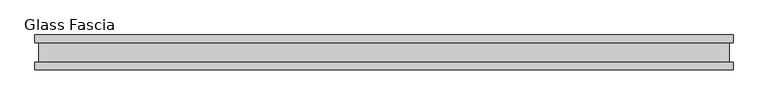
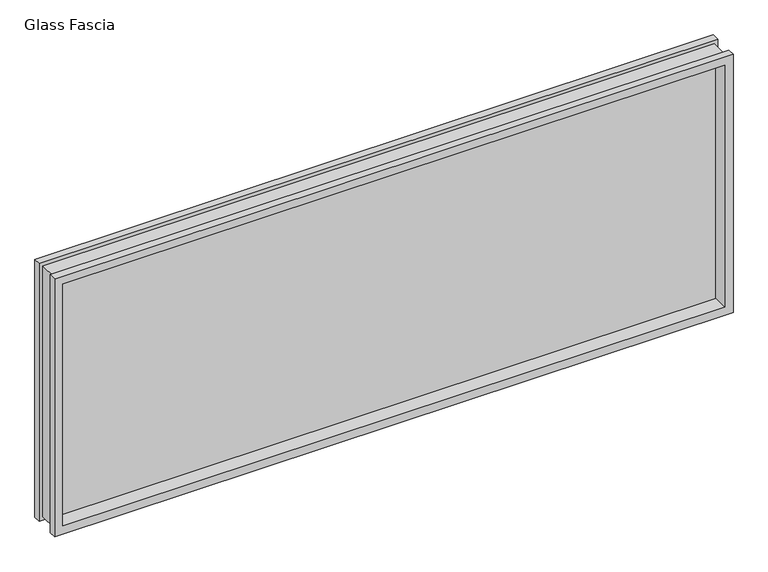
"""IFC4 building model written with IfcOpenShell, lengths in millimetres: proxy geometry, Panel-Fascia-Teknion-Altos-Glass : Glass Fascia."""

from ifc_helpers import new_model, si_unit, frame, origin, place, context, project, spatial, polyline, outline, extrude, faceted_brep, source, transform, mapped, element, save


def glass_fascia_7f66fccd(model_context):
    return source(origin(), model_context, "Body", "SolidModel", [
        faceted_brep([(985.6995219, -5.0827449, 793.1305243), (985.6995219, 5.0827449, 793.1305243), (985.6995219, 5.0827449, 17.6374757), (985.6995219, -5.0827449, 17.6374757), (1000.1619976, -28.8801202, 807.593), (1000.1619976, -50.0558594, 807.593), (1000.1619976, -50.0558594, 3.175), (1000.1619976, -28.8801202, 3.175), (989.3369977, 28.2698798, 796.7680001), (989.3369977, -28.8801202, 796.7680001), (989.3369977, -28.8801202, 13.9999999), (989.3369977, 28.2698798, 13.9999999), (1000.1619976, 50.0558594, 807.593), (1000.1619976, 28.2698798, 807.593), (1000.1619976, 28.2698798, 3.175), (1000.1619976, 50.0558594, 3.175), (-985.6995219, 5.0827449, 17.6374757), (-985.6995219, -5.0827449, 17.6374757), (-1000.1619976, -50.0558594, 3.175), (-1000.1619976, -28.8801202, 3.175), (-989.3369977, -28.8801202, 13.9999999), (-989.3369977, 28.2698798, 13.9999999), (-1000.1619976, 28.2698798, 3.175), (-1000.1619976, 50.0558594, 3.175), (-985.6995219, 5.0827449, 793.1305243), (-985.6995219, -5.0827449, 793.1305243), (-1000.1619976, -50.0558594, 807.593), (-1000.1619976, -28.8801202, 807.593), (-989.3369977, -28.8801202, 796.7680001), (-989.3369977, 28.2698798, 796.7680001), (-1000.1619976, 28.2698798, 807.593), (-1000.1619976, 50.0558594, 807.593), (975.2093308, 50.0558594, 782.6403332), (-975.2093308, 50.0558594, 782.6403332), (-975.2093308, 50.0558594, 28.1276668), (975.2093308, 50.0558594, 28.1276668), (975.2093308, 5.0827449, 28.1276668), (-975.2093308, 5.0827449, 28.1276668), (-975.2093308, 5.0827449, 782.6403332), (975.2093308, 5.0827449, 782.6403332), (975.2093308, -5.0827449, 782.6403332), (-975.2093308, -5.0827449, 782.6403332), (-975.2093308, -5.0827449, 28.1276668), (975.2093308, -5.0827449, 28.1276668), (975.2093308, -50.0558594, 28.1276668), (-975.2093308, -50.0558594, 28.1276668), (-975.2093308, -50.0558594, 782.6403332), (975.2093308, -50.0558594, 782.6403332)], [[[0, 1, 2, 3]], [[4, 5, 6, 7]], [[8, 9, 10, 11]], [[12, 13, 14, 15]], [[3, 2, 16, 17]], [[7, 6, 18, 19]], [[11, 10, 20, 21]], [[15, 14, 22, 23]], [[17, 16, 24, 25]], [[19, 18, 26, 27]], [[21, 20, 28, 29]], [[23, 22, 30, 31]], [[15, 23, 31, 12], [32, 33, 34, 35]], [[1, 24, 16, 2], [36, 37, 38, 39]], [[25, 24, 1, 0]], [[3, 17, 25, 0], [40, 41, 42, 43]], [[5, 26, 18, 6], [44, 45, 46, 47]], [[27, 26, 5, 4]], [[7, 19, 27, 4], [9, 28, 20, 10]], [[29, 28, 9, 8]], [[13, 30, 22, 14], [11, 21, 29, 8]], [[31, 30, 13, 12]], [[39, 32, 35, 36]], [[47, 40, 43, 44]], [[36, 35, 34, 37]], [[44, 43, 42, 45]], [[37, 34, 33, 38]], [[45, 42, 41, 46]], [[38, 33, 32, 39]], [[46, 41, 40, 47]]]),
        extrude(outline(polyline([(985.6995219, 2.9765625), (985.6995219, -2.9765625), (-985.6995219, -2.9765625), (-985.6995219, 2.9765625), (985.6995219, 2.9765625)])), frame((0.0, 0.0, 17.6374757), z_axis=(0.0, 0.0, 1.0), x_axis=(1.0, 0.0, 0.0)), (0.0, 0.0, 1.0), 775.4930485),
    ])


if __name__ == "__main__":
    model = new_model("IFC4")
    model_context = context("Model", 3, world=origin())
    ifc_project = project(units=[si_unit("LENGTHUNIT", "METRE", prefix="MILLI")], contexts=[model_context])
    site = spatial("IfcSite", under=ifc_project)
    building = spatial("IfcBuilding", under=site)
    placement = place(None, origin())
    glass_fascia_shape = glass_fascia_7f66fccd(model_context)
    element("IfcBuildingElementProxy", 1, Name="Panel-Fascia-Teknion-Altos-Glass : Glass Fascia", ObjectType="Panel-Fascia-Teknion-Altos-Glass : Glass Fascia", at=placement, inside=building, context=model_context, shape_type="MappedRepresentation", body=[
        mapped(glass_fascia_shape, transform((0.0, 0.0, 0.0), x_axis=(1.0, 0.0, 0.0), y_axis=(0.0, 1.0, 0.0), z_axis=(0.0, 0.0, 1.0))),
    ])
    save(model, "model.ifc")
